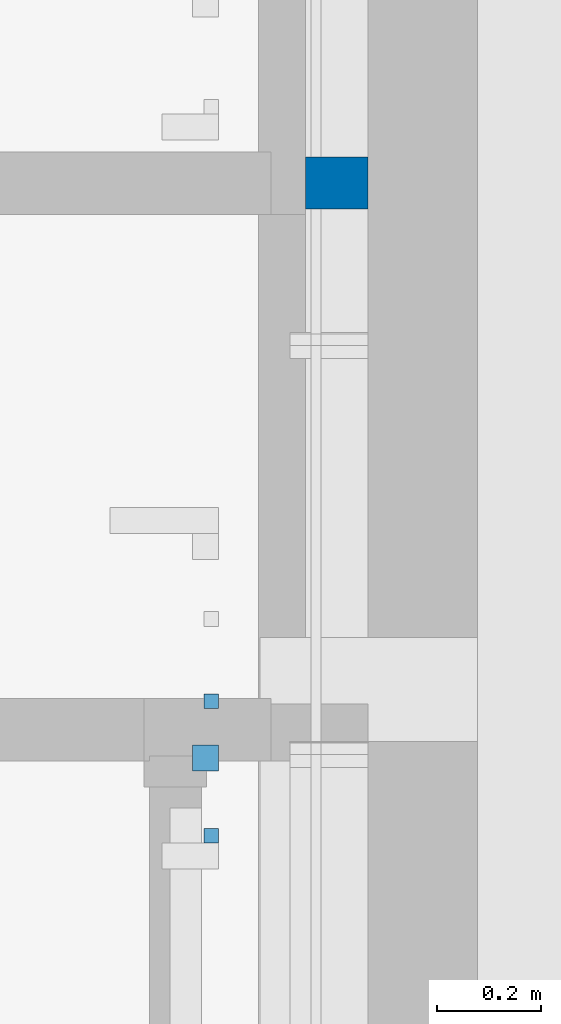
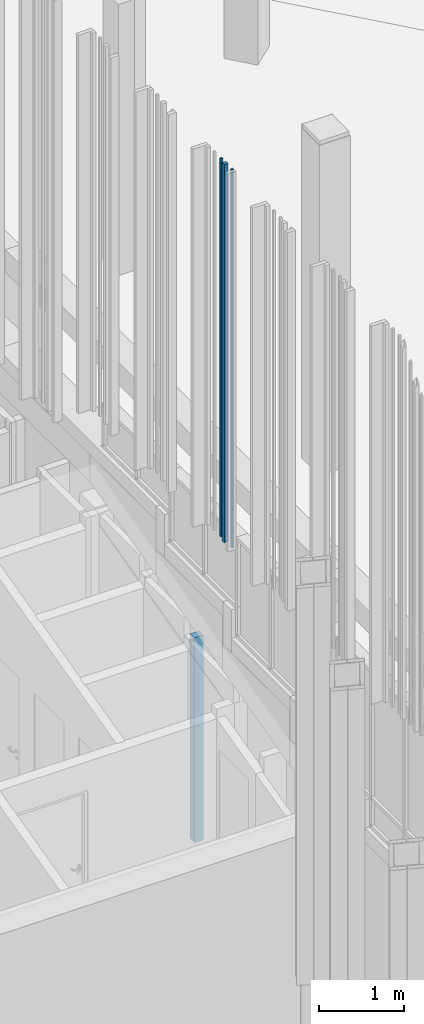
# One storey, part 120 of 390: 4 walls.
"""IFC2X3 building model written with IfcOpenShell, lengths in millimetres."""

from ifc_helpers import new_model, entity, si_unit, converted_unit, derived_unit, money_unit, direction, frame, origin_with_axes, place, context, subcontext, project, spatial, faceted_brep, material, type_object, element, save


model = new_model("IFC2X3")

# Units and contexts
model_context = context("Model", 3, precision=1e-05, world=origin_with_axes(), true_north=direction((0.0, 1.0)))
body_context = subcontext(model_context, "Body", "Model", "MODEL_VIEW")
ifc_project = project(units=[si_unit("LENGTHUNIT", "METRE", prefix="MILLI"), si_unit("AREAUNIT", "SQUARE_METRE"), si_unit("VOLUMEUNIT", "CUBIC_METRE"), converted_unit("PLANEANGLEUNIT", "DEGREE", entity("IfcPlaneAngleMeasure", 0.0174532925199), si_unit("PLANEANGLEUNIT", "RADIAN"), dimensions=[0, 0, 0, 0, 0, 0, 0]), si_unit("SOLIDANGLEUNIT", "STERADIAN"), money_unit("EUR"), converted_unit("TIMEUNIT", "Year", entity("IfcTimeMeasure", 31556926.0), si_unit("TIMEUNIT", "SECOND"), dimensions=[0, 0, 1, 0, 0, 0, 0]), si_unit("MASSUNIT", "GRAM", prefix="KILO"), si_unit("THERMODYNAMICTEMPERATUREUNIT", "DEGREE_CELSIUS"), si_unit("LUMINOUSINTENSITYUNIT", "LUMEN"), si_unit("ENERGYUNIT", "JOULE", prefix="MEGA"), derived_unit("THERMALCONDUCTANCEUNIT", [(si_unit("POWERUNIT", "WATT"), 1), (si_unit("LENGTHUNIT", "METRE"), -1), (si_unit("THERMODYNAMICTEMPERATUREUNIT", "KELVIN"), -1)]), derived_unit("SPECIFICHEATCAPACITYUNIT", [(si_unit("ENERGYUNIT", "JOULE"), 1), (si_unit("MASSUNIT", "GRAM", prefix="KILO"), -1), (si_unit("THERMODYNAMICTEMPERATUREUNIT", "KELVIN"), -1)]), derived_unit("MASSDENSITYUNIT", [(si_unit("MASSUNIT", "GRAM", prefix="KILO"), 1), (si_unit("VOLUMEUNIT", "CUBIC_METRE"), -1)])], contexts=[model_context])

# Site, building, storey
site_placement = place(None, origin_with_axes())
site = spatial("IfcSite", under=ifc_project, at=site_placement, Name="Site", CompositionType="ELEMENT")
building_placement = place(site_placement, origin_with_axes())
building = spatial("IfcBuilding", under=site, at=building_placement, Name="Building", CompositionType="ELEMENT")
storey_placement = place(building_placement, origin_with_axes())
storey = spatial("IfcBuildingStorey", under=building, at=storey_placement, Name="1 korrus", CompositionType="ELEMENT", Elevation=0.0)

# Walls
ifc_material_1 = material(Name="Müüriplokk - Konstuktsioon")
wall_type_1 = type_object("IfcWallType", Name="SS-09", PredefinedType="NOTDEFINED")
wall_1_placement = place(storey_placement, frame((122580.0, 62160.00001, -620.0), z_axis=(0.0, 0.0, 1.0), x_axis=(1.0, 0.0, 0.0)))
element("IfcWall", 1, at=wall_1_placement, inside=storey, type_object=wall_type_1, material=ifc_material_1, Name="SS-09", context=body_context, shape_type="Brep", body=[
    faceted_brep([(119.99999569, -100.0, 2946.61127132), (119.999995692, 0.0, 2946.61127132), (0.0, 0.0, 2946.61127132), (0.0, -100.0, 2946.61127132), (119.99999569, -100.0, 0.0), (119.999995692, 0.0, 0.0), (0.0, 0.0, 0.0), (0.0, -100.0, 0.0)], [[[0, 1, 2, 3]], [[1, 0, 4, 5]], [[1, 5, 6, 2]], [[7, 3, 2, 6]], [[4, 0, 3, 7]], [[5, 4, 7, 6]]]),
])
ifc_material_2 = material(Name="Site specified")
wall_type_2 = type_object("IfcWallType", Name="Puitfassaadi ribistik", PredefinedType="NOTDEFINED")
for number, where, z_axis, x_axis, name in (
    (2, (122398.999996, 60856.9999924, 4424.99966101), (0.0, 0.0, 1.0), (0.0, 1.0, 0.0), "Site specified"),
    (3, (122398.999996, 61114.9999924, 4424.99966101), (0.0, 0.0, 1.0), (0.0, 1.0, 0.0), "Site specified"),
):
    element("IfcWall", number, at=place(storey_placement, frame(where, z_axis=z_axis, x_axis=x_axis)), inside=storey, type_object=wall_type_2, material=ifc_material_2, Name=name, context=body_context, shape_type="Brep", body=[
        faceted_brep([(14.0, 14.0, 5440.00033899), (14.0, 14.0, 0.0), (-14.0, 14.0, 0.0), (-14.0, 14.0, 5440.00033899), (14.0, -14.0, 5440.00033899), (14.0, -14.0, 0.0), (-14.0, -14.0, 0.0), (-14.0, -14.0, 5440.00033899)], [[[0, 1, 2, 3]], [[4, 5, 1, 0]], [[2, 1, 5, 6]], [[3, 2, 6, 7]], [[4, 0, 3, 7]], [[7, 6, 5, 4]]]),
    ])
wall_2_placement = place(storey_placement, frame((122387.999996, 61005.9999924, 4424.99966101), z_axis=(0.0, 0.0, 1.0), x_axis=(0.0, 1.0, 0.0)))
element("IfcWall", 4, at=wall_2_placement, inside=storey, type_object=wall_type_2, material=ifc_material_2, Name="Site specified", context=body_context, shape_type="Brep", body=[
    faceted_brep([(25.0, 25.0, 5440.00033899), (25.0, 25.0, 0.0), (-25.0, 25.0, 0.0), (-25.0, 25.0, 5440.00033899), (25.0, -25.0, 5440.00033899), (25.0, -25.0, 0.0), (-25.0, -25.0, 0.0), (-25.0, -25.0, 5440.00033899)], [[[0, 1, 2, 3]], [[4, 5, 1, 0]], [[2, 1, 5, 6]], [[3, 2, 6, 7]], [[4, 0, 3, 7]], [[7, 6, 5, 4]]]),
])

save(model, "model.ifc")
